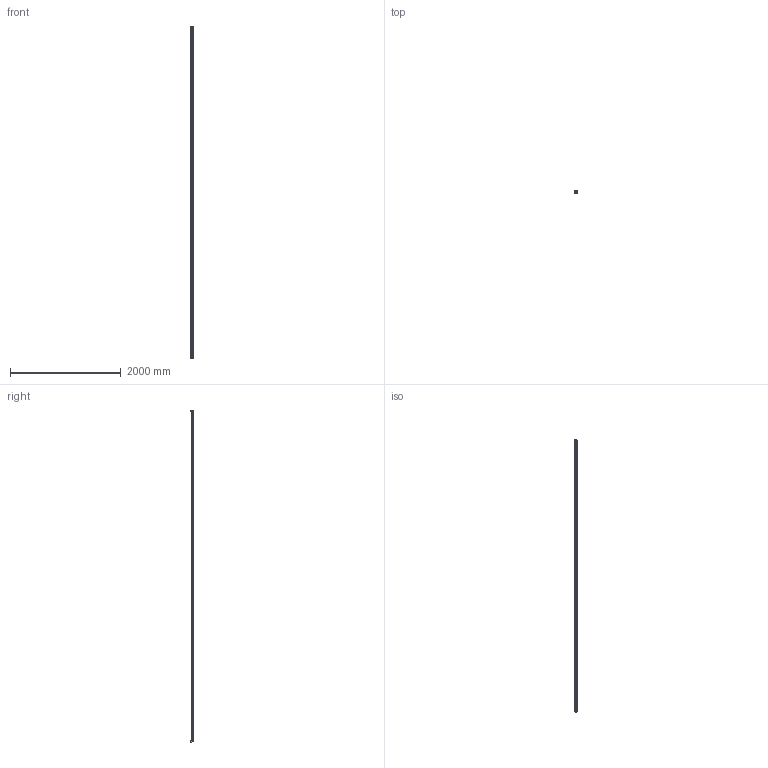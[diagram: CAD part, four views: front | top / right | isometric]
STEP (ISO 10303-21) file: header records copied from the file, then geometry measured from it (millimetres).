
FILE_DESCRIPTION((''),'2;1');
FILE_NAME('ROLLENSCHIENE_C','2021-12-23T04:11:57',('ac91sw'),(''),'CREO PARAMETRIC BY PTC INC, 2020044','CREO PARAMETRIC BY PTC INC, 2020044','');
FILE_SCHEMA(('AUTOMOTIVE_DESIGN { 1 0 10303 214 1 1 1 1 }'));
Length unit declared in the file: millimetre
Products named in the file (9): ROLLENSCHIENE_C_SKEL; ROLLENSCHIENE_C_RAIL1; ROLLENSCHIENE_C_BAND; R161943951_R_Z; R161943952_R_Z; 990000580_Z; 990000579_Z; R161943950_R_Z; ROLLENSCHIENE_C
Assembly tree (9 placements, depth 3):
  ROLLENSCHIENE_C
    ROLLENSCHIENE_C_SKEL
    ROLLENSCHIENE_C_RAIL1
    ROLLENSCHIENE_C_BAND
    R161943950_R_Z  x2
      R161943951_R_Z
      R161943952_R_Z
      990000580_Z
      990000579_Z
Bounding box: 53 x 51.3 x 5985.3 mm (x, y, z)
Volume: 6926578.8 mm3; surface area: 1757950.2 mm2
Topology: 10 solids, 10 shells, 878 faces, 2377 edges, 1978 vertices
Faces by surface type: cylinder 550, plane 308, cone 12, torus 8
Entity records: 27837 total; most frequent: DIRECTION 4743, CARTESIAN_POINT 4587, ORIENTED_EDGE 3772, EDGE_CURVE 1886, AXIS2_PLACEMENT_3D 1834, VERTEX_POINT 1238, EDGE_LOOP 1126, VECTOR 1075
